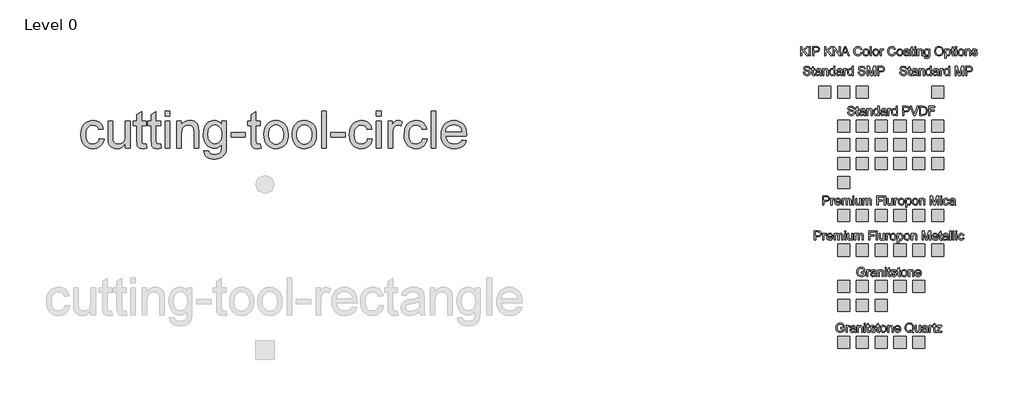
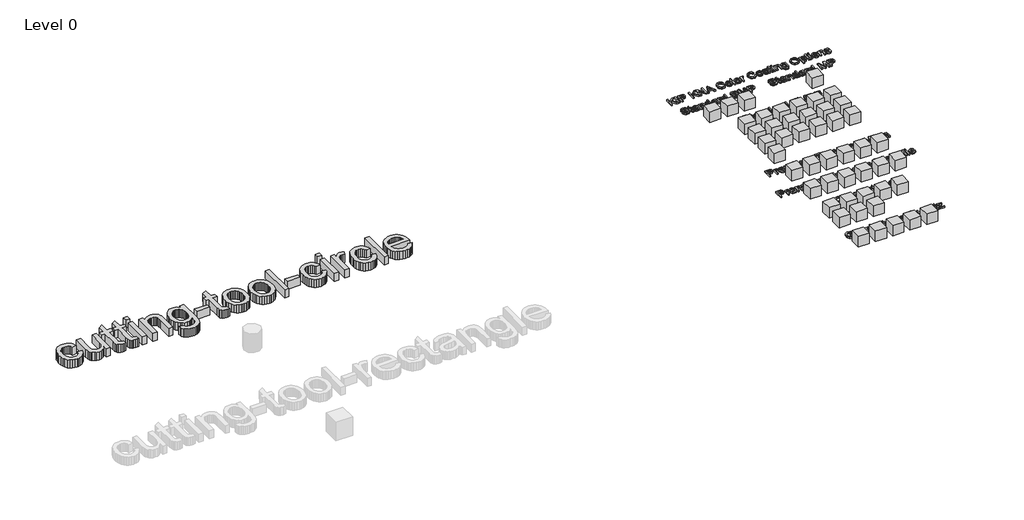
# One storey, part 3 of 3: 50 proxies.
"""IFC4 building model written with IfcOpenShell, lengths in millimetres."""

from ifc_helpers import new_model, si_unit, origin, origin_with_axes, place, context, project, spatial, polyline, outline, extrude, transform, mapped, element, save
from components import ks_color_sample_ks_color_sample_0243efec, r19_kna_color_range_kingspan_quadcore_4278cd54, r19_kna_color_range_kingspan_quadcore_c5814d20, r19_kna_color_range_kingspan_quadcore_91b79b7c

model = new_model("IFC4")

# Units and contexts
model_context = context("Model", 3, world=origin())
ifc_project = project(units=[si_unit("LENGTHUNIT", "METRE", prefix="MILLI")], contexts=[model_context])

# Site, building, storey
site = spatial("IfcSite", under=ifc_project)
building = spatial("IfcBuilding", under=site)
storey = spatial("IfcBuildingStorey", under=building, Name="Level 0", Elevation=0.0)

# Proxies
placement = place(None, origin())
element("IfcBuildingElementProxy", 1, Name="24\" Arial", ObjectType="24\" Arial", at=placement, inside=storey, context=model_context, shape_type="SweptSolid", body=[
    extrude(outline(polyline([(204.8977302, 12875.7491263), (281.0395037, 12866.2314046), (272.7579705, 12830.3029347), (259.8105229, 12798.5105841), (242.197161, 12770.8543527), (219.9178847, 12747.3342407), (193.9114538, 12728.5636948), (165.1166278, 12715.1561621), (133.5334068, 12707.1116424), (99.1617908, 12704.4301359), (56.4575209, 12708.1712325), (18.1682099, 12719.3945225), (-15.7061423, 12738.1000058), (-45.1655358, 12764.2876824), (-69.0109606, 12797.4649359), (-86.0434069, 12837.1391498), (-96.2628746, 12883.3103241), (-99.6693639, 12935.9784589), (-93.8509129, 13003.736458), (-86.5778493, 13034.2275576), (-76.3955601, 13062.4600572), (-63.2343356, 13087.8669833), (-47.0244658, 13109.881362), (-27.7659508, 13128.5031934), (-5.4587906, 13143.7324776), (18.8885453, 13155.5738618), (44.2675874, 13164.0319934), (70.6783356, 13169.1068723), (98.12079, 13170.7984987), (131.9021957, 13168.4748361), (162.4583579, 13161.5038486), (189.7892765, 13149.885536), (213.8949515, 13133.6198983), (234.3664183, 13113.0787216), (250.7947123, 13088.6337919), (263.1798335, 13060.2851091), (271.521782, 13028.0326733), (195.3800085, 13018.5149516), (181.5681584, 13051.734031), (160.0603381, 13075.5469246), (132.0462628, 13089.879275), (98.7156476, 13094.6567251), (72.8439891, 13092.3051787), (49.50977, 13085.2505393), (28.7129904, 13073.4928069), (10.4536503, 13057.0319816), (-4.4131425, 13035.4869827), (-15.0322802, 13008.4767295), (-21.4037628, 12976.0012221), (-23.5275904, 12938.0604605), (-21.4502361, 12899.5480778), (-15.2181732, 12866.6961371), (-4.8314017, 12839.5046383), (9.7100783, 12817.9735813), (27.6069271, 12801.6103499), (48.0598046, 12789.9223274), (71.0687109, 12782.9095139), (96.6336459, 12780.5719094), (136.0615516, 12786.4089496), (153.1125872, 12793.70525), (168.3883446, 12803.9200704), (181.46127, 12817.1649468), (191.9038093, 12833.5514149), (199.7159627, 12853.0794747), (204.8977302, 12875.7491263)])), origin_with_axes(), (0.0, 0.0, 1.0), 152.4),
    extrude(outline(polyline([(633.1952062, 12713.9478576), (633.1952062, 12790.8332031), (605.6458633, 12753.0318612), (573.5607312, 12726.0309027), (536.9398099, 12709.8303276), (495.7830993, 12704.4301359), (458.6974455, 12708.2223531), (424.177115, 12719.5990048), (395.2149854, 12736.701161), (374.8039338, 12757.6698916), (361.0664409, 12783.1372328), (352.1249876, 12813.7352209), (347.6635555, 12884.523276), (347.6635555, 13161.280777), (423.805329, 13161.280777), (423.805329, 12920.3634467), (424.9578656, 12872.1799807), (428.4154755, 12842.7345292), (439.5132877, 12816.839634), (458.5301418, 12797.1535651), (484.2019653, 12784.7173233), (515.2646859, 12780.5719094), (548.1119793, 12784.8102698), (578.8400925, 12797.5253511), (604.1773086, 12817.5460274), (620.8519109, 12843.7011728), (630.1093824, 12879.5227542), (633.1952062, 12928.5427388), (633.1952062, 13161.280777), (709.3369797, 13161.280777), (709.3369797, 12713.9478576), (633.1952062, 12713.9478576)])), origin_with_axes(), (0.0, 0.0, 1.0), 152.4),
    extrude(outline(polyline([(975.833187, 12777.448907), (985.3509087, 12711.7171415), (955.1990638, 12706.2518873), (928.393293, 12704.4301359), (891.8467288, 12707.5903169), (864.5948148, 12717.07086), (845.3362998, 12731.6820499), (832.7699329, 12750.2341715), (825.8547132, 12782.096232), (823.54964, 12836.6372387), (823.54964, 13085.1390035), (766.4433099, 13085.1390035), (766.4433099, 13161.280777), (823.54964, 13161.280777), (823.54964, 13269.9910044), (899.6914135, 13314.7540392), (899.6914135, 13161.280777), (975.833187, 13161.280777), (975.833187, 13085.1390035), (899.6914135, 13085.1390035), (899.6914135, 12838.8679547), (903.7067024, 12799.6073528), (916.7192125, 12785.7025562), (927.7054889, 12781.8545711), (942.6698755, 12780.5719094), (975.833187, 12777.448907)])), origin_with_axes(), (0.0, 0.0, 1.0), 152.4),
    extrude(outline(polyline([(1213.7762293, 12777.448907), (1223.293951, 12711.7171415), (1193.1421061, 12706.2518873), (1166.3363352, 12704.4301359), (1129.7897711, 12707.5903169), (1102.537857, 12717.07086), (1083.279342, 12731.6820499), (1070.7129751, 12750.2341715), (1063.7977555, 12782.096232), (1061.4926822, 12836.6372387), (1061.4926822, 13085.1390035), (1004.3863521, 13085.1390035), (1004.3863521, 13161.280777), (1061.4926822, 13161.280777), (1061.4926822, 13269.9910044), (1137.6344558, 13314.7540392), (1137.6344558, 13161.280777), (1213.7762293, 13161.280777), (1213.7762293, 13085.1390035), (1137.6344558, 13085.1390035), (1137.6344558, 12838.8679547), (1141.6497446, 12799.6073528), (1154.6622547, 12785.7025562), (1165.6485311, 12781.8545711), (1180.6129178, 12780.5719094), (1213.7762293, 12777.448907)])), origin_with_axes(), (0.0, 0.0, 1.0), 152.4),
    extrude(outline(polyline([(1289.9180028, 13246.9402722), (1289.9180028, 13323.0820457), (1366.0597763, 13323.0820457), (1366.0597763, 13246.9402722), (1289.9180028, 13246.9402722)])), origin_with_axes(), (0.0, 0.0, 1.0), 152.4),
    extrude(outline(polyline([(1289.9180028, 12713.9478576), (1289.9180028, 13161.280777), (1366.0597763, 13161.280777), (1366.0597763, 12713.9478576), (1289.9180028, 12713.9478576)])), origin_with_axes(), (0.0, 0.0, 1.0), 152.4),
    extrude(outline(polyline([(1480.2724366, 12713.9478576), (1480.2724366, 13161.280777), (1556.4142101, 13161.280777), (1556.4142101, 13098.8207284), (1582.8667842, 13130.3110029), (1614.6358982, 13152.8040561), (1651.7215521, 13166.299888), (1694.1237458, 13170.7984987), (1731.6555428, 13167.1735851), (1766.0271589, 13156.2988445), (1794.6918597, 13139.5312958), (1815.1029113, 13118.2279578), (1828.95194, 13092.4445984), (1837.9305719, 13062.2369856), (1841.9458608, 12988.6233569), (1841.9458608, 12713.9478576), (1765.8040873, 12713.9478576), (1765.8040873, 12978.3620633), (1763.6105498, 13017.734201), (1757.0299376, 13045.7296871), (1744.8911246, 13065.787542), (1726.0229849, 13081.3467862), (1701.8383054, 13091.3292404), (1673.7498728, 13094.6567251), (1650.6294307, 13092.7885005), (1629.1541417, 13087.1838265), (1609.3240057, 13077.8427031), (1591.1390228, 13064.7651305), (1575.9469173, 13046.4639644), (1565.0954133, 13021.4520611), (1558.5845109, 12989.7294203), (1556.4142101, 12951.2960422), (1556.4142101, 12713.9478576), (1480.2724366, 12713.9478576)])), origin_with_axes(), (0.0, 0.0, 1.0), 152.4),
    extrude(outline(polyline([(1927.605356, 12675.8769708), (2003.7471295, 12666.3592491), (2012.1494932, 12642.5649449), (2028.4337201, 12626.2063607), (2060.444495, 12613.4912794), (2102.3447776, 12609.252919), (2147.0334553, 12614.0489584), (2165.0836657, 12620.0440077), (2180.271124, 12628.4370768), (2203.3218562, 12651.487809), (2217.4497243, 12682.2716901), (2221.576549, 12715.026037), (2222.6547284, 12771.0541877), (2197.3175122, 12746.0701683), (2169.0431867, 12728.2244401), (2137.8317517, 12717.5170032), (2103.6832073, 12713.9478576), (2061.9362864, 12718.1025661), (2025.1805926, 12730.5666919), (1993.4161259, 12751.3402349), (1966.6428864, 12780.423195), (1945.3999636, 12815.3153114), (1930.2264473, 12853.5163233), (1921.1223376, 12895.0262306), (1918.0876343, 12939.8450333), (1923.5342993, 13001.319849), (1939.8742941, 13057.8499108), (1951.9852232, 13083.3404887), (1966.5313506, 13105.7545374), (1983.5126763, 13125.0920569), (2002.9292003, 13141.3530472), (2024.4695519, 13154.2354322), (2047.8223602, 13163.4371358), (2072.9876253, 13168.9581579), (2099.9653472, 13170.7984987), (2135.5731517, 13166.6344954), (2167.8906501, 13154.1424857), (2196.9178423, 13133.3224695), (2222.6547284, 13104.1744468), (2222.6547284, 13161.280777), (2298.7965019, 13161.280777), (2298.7965019, 12775.0694765), (2293.5914978, 12685.8966036), (2287.0852428, 12652.7286448), (2277.9764857, 12627.1730043), (2266.0468023, 12606.5621178), (2251.0777683, 12588.2284205), (2233.0693838, 12572.1719125), (2212.0216487, 12558.3925937), (2188.1483399, 12547.3319601), (2161.6632345, 12539.4315075), (2132.5663324, 12534.691236), (2100.8576336, 12533.1111455), (2063.5535555, 12535.3372142), (2030.0138107, 12542.0154202), (2000.2383991, 12553.1457637), (1974.2273208, 12568.7282446), (1953.2167643, 12588.7814522), (1938.442918, 12613.3239757), (1929.9057819, 12642.3558153), (1927.605356, 12675.8769708)]), holes=[polyline([(1994.2294078, 12945.0500373), (1996.2602889, 12907.4020572), (2002.352932, 12875.2100366), (2012.5073372, 12848.4739756), (2026.7235045, 12827.1938742), (2044.0069064, 12810.9607678), (2063.3630152, 12799.3656919), (2084.7918309, 12792.4086463), (2108.2933537, 12790.0896311), (2131.5625102, 12792.3947043), (2152.8890848, 12799.309924), (2172.2730776, 12810.8352901), (2189.7144885, 12826.9708026), (2204.1258434, 12848.0417744), (2214.4196684, 12874.3735181), (2220.5959634, 12905.9660337), (2222.6547284, 12942.8193213), (2220.5355482, 12978.1343443), (2214.1780075, 13008.8299262), (2203.5821064, 13034.9060671), (2188.7478449, 13056.3627668), (2170.9300006, 13073.1163736), (2151.3833515, 13085.0832356), (2130.1078974, 13092.2633527), (2107.1036385, 13094.6567251), (2084.4851075, 13092.3005313), (2063.6232654, 13085.23195), (2044.5181121, 13073.450981), (2027.1696477, 13056.9576244), (2012.7582928, 13035.8262374), (2002.4644678, 13010.1311773), (1996.2881728, 12979.8724439), (1994.2294078, 12945.0500373)])]), origin_with_axes(), (0.0, 0.0, 1.0), 152.4),
    extrude(outline(polyline([(2374.9382754, 12894.7845697), (2374.9382754, 12970.9263432), (2612.8813176, 12970.9263432), (2612.8813176, 12894.7845697), (2374.9382754, 12894.7845697)])), origin_with_axes(), (0.0, 0.0, 1.0), 152.4),
    extrude(outline(polyline([(2860.3420816, 12777.448907), (2869.8598033, 12711.7171415), (2839.7079584, 12706.2518873), (2812.9021875, 12704.4301359), (2776.3556234, 12707.5903169), (2749.1037093, 12717.07086), (2729.8451943, 12731.6820499), (2717.2788274, 12750.2341715), (2710.3636078, 12782.096232), (2708.0585345, 12836.6372387), (2708.0585345, 13085.1390035), (2650.9522044, 13085.1390035), (2650.9522044, 13161.280777), (2708.0585345, 13161.280777), (2708.0585345, 13269.9910044), (2784.2003081, 13314.7540392), (2784.2003081, 13161.280777), (2860.3420816, 13161.280777), (2860.3420816, 13085.1390035), (2784.2003081, 13085.1390035), (2784.2003081, 12838.8679547), (2788.2155969, 12799.6073528), (2801.228107, 12785.7025562), (2812.2143834, 12781.8545711), (2827.1787701, 12780.5719094), (2860.3420816, 12777.448907)])), origin_with_axes(), (0.0, 0.0, 1.0), 152.4),
    extrude(outline(polyline([(2917.4484117, 12937.6143173), (2921.5659417, 12995.5478713), (2933.9185317, 13045.4694369), (2954.5061816, 13087.3790141), (2983.3288915, 13121.276603), (3012.3467891, 13142.9424324), (3044.3761533, 13158.4180247), (3079.4169841, 13167.7033802), (3117.4692816, 13170.7984987), (3159.4764527, 13167.0295181), (3197.4590403, 13155.7225762), (3231.4170443, 13136.8776732), (3261.350465, 13110.4948089), (3285.7814527, 13077.4662698), (3303.2321582, 13038.6843423), (3313.7025816, 12994.1490264), (3317.1927227, 12943.8603221), (3315.6498108, 12903.1032815), (3311.021075, 12866.937798), (3303.3065154, 12835.3638717), (3292.506132, 12808.3815025), (3278.7546972, 12785.0751674), (3262.1869835, 12764.5293433), (3242.8029907, 12746.7440304), (3220.602719, 12731.7192285), (3196.4505707, 12719.7802505), (3171.2109484, 12711.252409), (3144.883852, 12706.1357042), (3117.4692816, 12704.4301359), (3074.8486636, 12708.1851745), (3036.5128793, 12719.4502904), (3002.4619287, 12738.2254836), (2972.6958118, 12764.510754), (2948.5250743, 12797.8599586), (2931.2602617, 12837.8269539), (2920.9013742, 12884.4117402), (2917.4484117, 12937.6143173)]), holes=[polyline([(2993.5901852, 12937.7630317), (2995.7930173, 12900.8307395), (3002.4015135, 12868.8524959), (3013.4156739, 12841.8283008), (3028.8354984, 12819.7581542), (3047.5921022, 12802.6141721), (3068.6166007, 12790.3684706), (3091.9089939, 12783.0210497), (3117.4692816, 12780.5719094), (3142.8994442, 12783.0349917), (3166.0988909, 12790.4242385), (3187.0676215, 12802.7396498), (3205.805636, 12819.9812258), (3221.2254605, 12842.2697967), (3232.2396209, 12869.726193), (3238.8481171, 12902.3504148), (3241.0509492, 12940.1424621), (3238.8341751, 12975.9036283), (3232.183853, 13007.0453534), (3221.0999827, 13033.5676374), (3205.5825644, 13055.4704804), (3186.77484, 13072.6144625), (3165.8200514, 13084.860164), (3142.7181986, 13092.2075848), (3117.4692816, 13094.6567251), (3091.9089939, 13092.2168795), (3068.6166007, 13084.8973426), (3047.5921022, 13072.6981143), (3028.8354984, 13055.6191948), (3013.4156739, 13033.6141107), (3002.4015135, 13006.6363888), (2995.7930173, 12974.6860291), (2993.5901852, 12937.7630317)])]), origin_with_axes(), (0.0, 0.0, 1.0), 152.4),
    extrude(outline(polyline([(3383.8167745, 12937.6143173), (3387.9343045, 12995.5478713), (3400.2868945, 13045.4694369), (3420.8745444, 13087.3790141), (3449.6972543, 13121.276603), (3478.7151519, 13142.9424324), (3510.7445161, 13158.4180247), (3545.7853469, 13167.7033802), (3583.8376444, 13170.7984987), (3625.8448155, 13167.0295181), (3663.827403, 13155.7225762), (3697.7854071, 13136.8776732), (3727.7188277, 13110.4948089), (3752.1498155, 13077.4662698), (3769.600521, 13038.6843423), (3780.0709444, 12994.1490264), (3783.5610855, 12943.8603221), (3782.0181736, 12903.1032815), (3777.3894378, 12866.937798), (3769.6748782, 12835.3638717), (3758.8744948, 12808.3815025), (3745.12306, 12785.0751674), (3728.5553463, 12764.5293433), (3709.1713535, 12746.7440304), (3686.9710818, 12731.7192285), (3662.8189335, 12719.7802505), (3637.5793112, 12711.252409), (3611.2522148, 12706.1357042), (3583.8376444, 12704.4301359), (3541.2170264, 12708.1851745), (3502.8812421, 12719.4502904), (3468.8302915, 12738.2254836), (3439.0641746, 12764.510754), (3414.8934371, 12797.8599586), (3397.6286245, 12837.8269539), (3387.269737, 12884.4117402), (3383.8167745, 12937.6143173)]), holes=[polyline([(3459.958548, 12937.7630317), (3462.1613801, 12900.8307395), (3468.7698763, 12868.8524959), (3479.7840367, 12841.8283008), (3495.2038612, 12819.7581542), (3513.960465, 12802.6141721), (3534.9849635, 12790.3684706), (3558.2773566, 12783.0210497), (3583.8376444, 12780.5719094), (3609.267807, 12783.0349917), (3632.4672536, 12790.4242385), (3653.4359842, 12802.7396498), (3672.1739988, 12819.9812258), (3687.5938233, 12842.2697967), (3698.6079837, 12869.726193), (3705.2164799, 12902.3504148), (3707.419312, 12940.1424621), (3705.2025379, 12975.9036283), (3698.5522158, 13007.0453534), (3687.4683455, 13033.5676374), (3671.9509272, 13055.4704804), (3653.1432028, 13072.6144625), (3632.1884141, 13084.860164), (3609.0865614, 13092.2075848), (3583.8376444, 13094.6567251), (3558.2773566, 13092.2168795), (3534.9849635, 13084.8973426), (3513.960465, 13072.6981143), (3495.2038612, 13055.6191948), (3479.7840367, 13033.6141107), (3468.7698763, 13006.6363888), (3462.1613801, 12974.6860291), (3459.958548, 12937.7630317)])]), origin_with_axes(), (0.0, 0.0, 1.0), 152.4),
    extrude(outline(polyline([(3869.2205807, 12713.9478576), (3869.2205807, 13323.0820457), (3945.3623542, 13323.0820457), (3945.3623542, 12713.9478576), (3869.2205807, 12713.9478576)])), origin_with_axes(), (0.0, 0.0, 1.0), 152.4),
    extrude(outline(polyline([(4021.5041277, 12894.7845697), (4021.5041277, 12970.9263432), (4259.44717, 12970.9263432), (4259.44717, 12894.7845697), (4021.5041277, 12894.7845697)])), origin_with_axes(), (0.0, 0.0, 1.0), 152.4),
    extrude(outline(polyline([(4630.6383158, 12875.7491263), (4706.7800894, 12866.2314046), (4698.4985561, 12830.3029347), (4685.5511086, 12798.5105841), (4667.9377467, 12770.8543527), (4645.6584704, 12747.3342407), (4619.6520394, 12728.5636948), (4590.8572135, 12715.1561621), (4559.2739925, 12707.1116424), (4524.9023765, 12704.4301359), (4482.1981066, 12708.1712325), (4443.9087956, 12719.3945225), (4410.0344433, 12738.1000058), (4380.5750499, 12764.2876824), (4356.7296251, 12797.4649359), (4339.6971788, 12837.1391498), (4329.477711, 12883.3103241), (4326.0712218, 12935.9784589), (4331.8896727, 13003.736458), (4339.1627364, 13034.2275576), (4349.3450256, 13062.4600572), (4362.5062501, 13087.8669833), (4378.7161199, 13109.881362), (4397.9746349, 13128.5031934), (4420.2817951, 13143.7324776), (4444.629131, 13155.5738618), (4470.008173, 13164.0319934), (4496.4189213, 13169.1068723), (4523.8613756, 13170.7984987), (4557.6427814, 13168.4748361), (4588.1989435, 13161.5038486), (4615.5298621, 13149.885536), (4639.6355371, 13133.6198983), (4660.107004, 13113.0787216), (4676.535298, 13088.6337919), (4688.9204192, 13060.2851091), (4697.2623677, 13028.0326733), (4621.1205942, 13018.5149516), (4607.3087441, 13051.734031), (4585.8009238, 13075.5469246), (4557.7868485, 13089.879275), (4524.4562332, 13094.6567251), (4498.5845747, 13092.3051787), (4475.2503557, 13085.2505393), (4454.4535761, 13073.4928069), (4436.194236, 13057.0319816), (4421.3274432, 13035.4869827), (4410.7083055, 13008.4767295), (4404.3368228, 12976.0012221), (4402.2129953, 12938.0604605), (4404.2903496, 12899.5480778), (4410.5224125, 12866.6961371), (4420.9091839, 12839.5046383), (4435.450664, 12817.9735813), (4453.3475128, 12801.6103499), (4473.8003903, 12789.9223274), (4496.8092966, 12782.9095139), (4522.3742316, 12780.5719094), (4561.8021373, 12786.4089496), (4578.8531729, 12793.70525), (4594.1289303, 12803.9200704), (4607.2018557, 12817.1649468), (4617.644395, 12833.5514149), (4625.4565484, 12853.0794747), (4630.6383158, 12875.7491263)])), origin_with_axes(), (0.0, 0.0, 1.0), 152.4),
    extrude(outline(polyline([(4773.4041412, 13246.9402722), (4773.4041412, 13323.0820457), (4849.5459147, 13323.0820457), (4849.5459147, 13246.9402722), (4773.4041412, 13246.9402722)])), origin_with_axes(), (0.0, 0.0, 1.0), 152.4),
    extrude(outline(polyline([(4773.4041412, 12713.9478576), (4773.4041412, 13161.280777), (4849.5459147, 13161.280777), (4849.5459147, 12713.9478576), (4773.4041412, 12713.9478576)])), origin_with_axes(), (0.0, 0.0, 1.0), 152.4),
    extrude(outline(polyline([(4963.758575, 12713.9478576), (4963.758575, 13161.280777), (5030.3826268, 13161.280777), (5030.3826268, 13095.1028684), (5054.9948602, 13133.4711839), (5077.6738065, 13156.0757729), (5100.4271099, 13167.1178172), (5125.2624149, 13170.7984987), (5163.1845873, 13164.9242798), (5201.7016172, 13147.3016232), (5176.2714546, 13079.041713), (5149.5028623, 13090.7529721), (5122.7342701, 13094.6567251), (5099.999556, 13090.9016865), (5079.6814509, 13079.6365706), (5063.2670988, 13061.7164852), (5052.2436438, 13037.9965382), (5042.9861723, 12995.4642194), (5039.9003485, 12949.0653262), (5039.9003485, 12713.9478576), (4963.758575, 12713.9478576)])), origin_with_axes(), (0.0, 0.0, 1.0), 152.4),
    extrude(outline(polyline([(5534.8218764, 12875.7491263), (5610.9636499, 12866.2314046), (5602.6821167, 12830.3029347), (5589.7346691, 12798.5105841), (5572.1213072, 12770.8543527), (5549.8420309, 12747.3342407), (5523.8356, 12728.5636948), (5495.040774, 12715.1561621), (5463.457553, 12707.1116424), (5429.085937, 12704.4301359), (5386.3816671, 12708.1712325), (5348.0923561, 12719.3945225), (5314.2180039, 12738.1000058), (5284.7586104, 12764.2876824), (5260.9131856, 12797.4649359), (5243.8807393, 12837.1391498), (5233.6612716, 12883.3103241), (5230.2547823, 12935.9784589), (5236.0732333, 13003.736458), (5243.3462969, 13034.2275576), (5253.5285861, 13062.4600572), (5266.6898106, 13087.8669833), (5282.8996804, 13109.881362), (5302.1581954, 13128.5031934), (5324.4653556, 13143.7324776), (5348.8126915, 13155.5738618), (5374.1917336, 13164.0319934), (5400.6024818, 13169.1068723), (5428.0449362, 13170.7984987), (5461.8263419, 13168.4748361), (5492.3825041, 13161.5038486), (5519.7134226, 13149.885536), (5543.8190976, 13133.6198983), (5564.2905645, 13113.0787216), (5580.7188585, 13088.6337919), (5593.1039797, 13060.2851091), (5601.4459282, 13028.0326733), (5525.3041547, 13018.5149516), (5511.4923046, 13051.734031), (5489.9844843, 13075.5469246), (5461.970409, 13089.879275), (5428.6397938, 13094.6567251), (5402.7681352, 13092.3051787), (5379.4339162, 13085.2505393), (5358.6371366, 13073.4928069), (5340.3777965, 13057.0319816), (5325.5110037, 13035.4869827), (5314.891866, 13008.4767295), (5308.5203834, 12976.0012221), (5306.3965558, 12938.0604605), (5308.4739101, 12899.5480778), (5314.705973, 12866.6961371), (5325.0927445, 12839.5046383), (5339.6342245, 12817.9735813), (5357.5310733, 12801.6103499), (5377.9839508, 12789.9223274), (5400.9928571, 12782.9095139), (5426.5577921, 12780.5719094), (5465.9856978, 12786.4089496), (5483.0367334, 12793.70525), (5498.3124908, 12803.9200704), (5511.3854162, 12817.1649468), (5521.8279555, 12833.5514149), (5529.6401089, 12853.0794747), (5534.8218764, 12875.7491263)])), origin_with_axes(), (0.0, 0.0, 1.0), 152.4),
    extrude(outline(polyline([(5677.5877017, 12713.9478576), (5677.5877017, 13323.0820457), (5753.7294752, 13323.0820457), (5753.7294752, 12713.9478576), (5677.5877017, 12713.9478576)])), origin_with_axes(), (0.0, 0.0, 1.0), 152.4),
    extrude(outline(polyline([(6181.1346649, 12847.1959612), (6255.7892944, 12837.6782395), (6244.3429328, 12807.7773502), (6228.890577, 12781.4270172), (6209.432227, 12758.6272405), (6185.9678829, 12739.3780202), (6158.7392055, 12724.0883208), (6127.9878557, 12713.167107), (6093.7138335, 12706.6143786), (6055.9171389, 12704.4301359), (6008.6724325, 12708.1991165), (5966.5769622, 12719.5060583), (5929.6307281, 12738.3509614), (5897.8337302, 12764.7338256), (5872.2641478, 12797.9203738), (5854.0001604, 12837.1763284), (5843.0417679, 12882.5016896), (5839.3889704, 12933.8964572), (5843.0789465, 12987.0339718), (5854.1488748, 13033.8697136), (5872.5987552, 13074.4036826), (5898.4285878, 13108.6358789), (5930.1419339, 13135.832025), (5966.2423548, 13155.2578437), (6006.7298506, 13166.9133349), (6051.6044212, 13170.7984987), (6095.0336738, 13166.9226296), (6134.3082177, 13155.2950223), (6169.4280531, 13135.9156769), (6200.3931798, 13108.7845933), (6225.6699807, 13074.6267542), (6243.7248385, 13034.1671424), (6254.5577532, 12987.4057578), (6258.1687248, 12934.3426004), (6257.7225816, 12913.820013), (5915.5307439, 12913.820013), (5919.9410554, 12883.4358019), (5928.7105578, 12856.8252187), (5941.839251, 12833.9882634), (5959.3271352, 12814.9249361), (5980.2075666, 12799.8954869), (6003.5139017, 12789.1601661), (6029.2461404, 12782.7189736), (6057.4042829, 12780.5719094), (6097.9289573, 12784.5500196), (6132.0589124, 12796.4843503), (6159.7941483, 12817.1184735), (6181.1346649, 12847.1959612)]), holes=[polyline([(5915.5307439, 12989.9617866), (6182.0269513, 12989.9617866), (6171.728479, 13030.1890321), (6162.8706774, 13046.0085266), (6151.540499, 13058.9652688), (6130.7762507, 13074.580281), (6107.1492502, 13085.7338611), (6080.6594974, 13092.4260091), (6051.3069924, 13094.6567251), (6024.5337529, 13092.8767997), (5999.9819346, 13087.5370232), (5977.6515378, 13078.6373957), (5957.5425623, 13066.1779173), (5940.6681251, 13050.7348562), (5928.041343, 13032.8844807), (5919.6622159, 13012.6267908), (5915.5307439, 12989.9617866)])]), origin_with_axes(), (0.0, 0.0, 1.0), 152.4),
])
ks_color_sample_ks_color_sample_shape = ks_color_sample_ks_color_sample_0243efec(model_context)
element("IfcBuildingElementProxy", 2, Name="KS_Color Sample : KS_Color Sample", ObjectType="KS_Color Sample : KS_Color Sample", at=placement, inside=storey, context=model_context, shape_type="MappedRepresentation", body=[
    mapped(ks_color_sample_ks_color_sample_shape, transform((12166.5853815, 13639.2290821, 0.0), x_axis=(1.0, 0.0, 0.0), y_axis=(0.0, 1.0, 0.0), z_axis=(0.0, 0.0, 1.0))),
])
element("IfcBuildingElementProxy", 3, Name="KS_Color Sample : KS_Color Sample", ObjectType="KS_Color Sample : KS_Color Sample", at=placement, inside=storey, context=model_context, shape_type="MappedRepresentation", body=[
    mapped(ks_color_sample_ks_color_sample_shape, transform((12476.5853815, 13639.2290821, 0.0), x_axis=(1.0, 0.0, 0.0), y_axis=(0.0, 1.0, 0.0), z_axis=(0.0, 0.0, 1.0))),
])
element("IfcBuildingElementProxy", 4, Name="KS_Color Sample : KS_Color Sample", ObjectType="KS_Color Sample : KS_Color Sample", at=placement, inside=storey, context=model_context, shape_type="MappedRepresentation", body=[
    mapped(ks_color_sample_ks_color_sample_shape, transform((12786.5853815, 13639.2290821, 0.0), x_axis=(1.0, 0.0, 0.0), y_axis=(0.0, 1.0, 0.0), z_axis=(0.0, 0.0, 1.0))),
])
element("IfcBuildingElementProxy", 5, Name="KS_Color Sample : KS_Color Sample", ObjectType="KS_Color Sample : KS_Color Sample", at=placement, inside=storey, context=model_context, shape_type="MappedRepresentation", body=[
    mapped(ks_color_sample_ks_color_sample_shape, transform((14026.5853815, 13639.2290821, 0.0), x_axis=(1.0, 0.0, 0.0), y_axis=(0.0, 1.0, 0.0), z_axis=(0.0, 0.0, 1.0))),
])
element("IfcBuildingElementProxy", 6, Name="KS_Color Sample : KS_Color Sample", ObjectType="KS_Color Sample : KS_Color Sample", at=placement, inside=storey, context=model_context, shape_type="MappedRepresentation", body=[
    mapped(ks_color_sample_ks_color_sample_shape, transform((12786.5853815, 13079.2290821, 0.0), x_axis=(1.0, 0.0, 0.0), y_axis=(0.0, 1.0, 0.0), z_axis=(0.0, 0.0, 1.0))),
])
element("IfcBuildingElementProxy", 7, Name="KS_Color Sample : KS_Color Sample", ObjectType="KS_Color Sample : KS_Color Sample", at=placement, inside=storey, context=model_context, shape_type="MappedRepresentation", body=[
    mapped(ks_color_sample_ks_color_sample_shape, transform((13096.5853815, 13079.2290821, 0.0), x_axis=(1.0, 0.0, 0.0), y_axis=(0.0, 1.0, 0.0), z_axis=(0.0, 0.0, 1.0))),
])
element("IfcBuildingElementProxy", 8, Name="KS_Color Sample : KS_Color Sample", ObjectType="KS_Color Sample : KS_Color Sample", at=placement, inside=storey, context=model_context, shape_type="MappedRepresentation", body=[
    mapped(ks_color_sample_ks_color_sample_shape, transform((13406.5853815, 13079.2290821, 0.0), x_axis=(1.0, 0.0, 0.0), y_axis=(0.0, 1.0, 0.0), z_axis=(0.0, 0.0, 1.0))),
])
element("IfcBuildingElementProxy", 9, Name="KS_Color Sample : KS_Color Sample", ObjectType="KS_Color Sample : KS_Color Sample", at=placement, inside=storey, context=model_context, shape_type="MappedRepresentation", body=[
    mapped(ks_color_sample_ks_color_sample_shape, transform((13716.5853815, 13079.2290821, 0.0), x_axis=(1.0, 0.0, 0.0), y_axis=(0.0, 1.0, 0.0), z_axis=(0.0, 0.0, 1.0))),
])
element("IfcBuildingElementProxy", 10, Name="KS_Color Sample : KS_Color Sample", ObjectType="KS_Color Sample : KS_Color Sample", at=placement, inside=storey, context=model_context, shape_type="MappedRepresentation", body=[
    mapped(ks_color_sample_ks_color_sample_shape, transform((12476.5853815, 11599.2290821, 0.0), x_axis=(1.0, 0.0, 0.0), y_axis=(0.0, 1.0, 0.0), z_axis=(0.0, 0.0, 1.0))),
])
element("IfcBuildingElementProxy", 11, Name="KS_Color Sample : KS_Color Sample", ObjectType="KS_Color Sample : KS_Color Sample", at=placement, inside=storey, context=model_context, shape_type="MappedRepresentation", body=[
    mapped(ks_color_sample_ks_color_sample_shape, transform((12786.5853815, 11599.2290821, 0.0), x_axis=(1.0, 0.0, 0.0), y_axis=(0.0, 1.0, 0.0), z_axis=(0.0, 0.0, 1.0))),
])
element("IfcBuildingElementProxy", 12, Name="KS_Color Sample : KS_Color Sample", ObjectType="KS_Color Sample : KS_Color Sample", at=placement, inside=storey, context=model_context, shape_type="MappedRepresentation", body=[
    mapped(ks_color_sample_ks_color_sample_shape, transform((13096.5853815, 11599.2290821, 0.0), x_axis=(1.0, 0.0, 0.0), y_axis=(0.0, 1.0, 0.0), z_axis=(0.0, 0.0, 1.0))),
])
element("IfcBuildingElementProxy", 13, Name="KS_Color Sample : KS_Color Sample", ObjectType="KS_Color Sample : KS_Color Sample", at=placement, inside=storey, context=model_context, shape_type="MappedRepresentation", body=[
    mapped(ks_color_sample_ks_color_sample_shape, transform((13406.5853815, 11599.2290821, 0.0), x_axis=(1.0, 0.0, 0.0), y_axis=(0.0, 1.0, 0.0), z_axis=(0.0, 0.0, 1.0))),
])
element("IfcBuildingElementProxy", 14, Name="KS_Color Sample : KS_Color Sample", ObjectType="KS_Color Sample : KS_Color Sample", at=placement, inside=storey, context=model_context, shape_type="MappedRepresentation", body=[
    mapped(ks_color_sample_ks_color_sample_shape, transform((14026.5853815, 13079.2290821, 0.0), x_axis=(1.0, 0.0, 0.0), y_axis=(0.0, 1.0, 0.0), z_axis=(0.0, 0.0, 1.0))),
])
element("IfcBuildingElementProxy", 15, Name="KS_Color Sample : KS_Color Sample", ObjectType="KS_Color Sample : KS_Color Sample", at=placement, inside=storey, context=model_context, shape_type="MappedRepresentation", body=[
    mapped(ks_color_sample_ks_color_sample_shape, transform((13716.5853815, 12769.2290821, 0.0), x_axis=(1.0, 0.0, 0.0), y_axis=(0.0, 1.0, 0.0), z_axis=(0.0, 0.0, 1.0))),
])
element("IfcBuildingElementProxy", 16, Name="KS_Color Sample : KS_Color Sample", ObjectType="KS_Color Sample : KS_Color Sample", at=placement, inside=storey, context=model_context, shape_type="MappedRepresentation", body=[
    mapped(ks_color_sample_ks_color_sample_shape, transform((14026.5853815, 12769.2290821, 0.0), x_axis=(1.0, 0.0, 0.0), y_axis=(0.0, 1.0, 0.0), z_axis=(0.0, 0.0, 1.0))),
])
element("IfcBuildingElementProxy", 17, Name="KS_Color Sample : KS_Color Sample", ObjectType="KS_Color Sample : KS_Color Sample", at=placement, inside=storey, context=model_context, shape_type="MappedRepresentation", body=[
    mapped(ks_color_sample_ks_color_sample_shape, transform((12476.5853815, 12769.2290821, 0.0), x_axis=(1.0, 0.0, 0.0), y_axis=(0.0, 1.0, 0.0), z_axis=(0.0, 0.0, 1.0))),
])
element("IfcBuildingElementProxy", 18, Name="KS_Color Sample : KS_Color Sample", ObjectType="KS_Color Sample : KS_Color Sample", at=placement, inside=storey, context=model_context, shape_type="MappedRepresentation", body=[
    mapped(ks_color_sample_ks_color_sample_shape, transform((13096.5853815, 12769.2290821, 0.0), x_axis=(1.0, 0.0, 0.0), y_axis=(0.0, 1.0, 0.0), z_axis=(0.0, 0.0, 1.0))),
])
element("IfcBuildingElementProxy", 19, Name="KS_Color Sample : KS_Color Sample", ObjectType="KS_Color Sample : KS_Color Sample", at=placement, inside=storey, context=model_context, shape_type="MappedRepresentation", body=[
    mapped(ks_color_sample_ks_color_sample_shape, transform((13406.5853815, 12769.2290821, 0.0), x_axis=(1.0, 0.0, 0.0), y_axis=(0.0, 1.0, 0.0), z_axis=(0.0, 0.0, 1.0))),
])
element("IfcBuildingElementProxy", 20, Name="KS_Color Sample : KS_Color Sample", ObjectType="KS_Color Sample : KS_Color Sample", at=placement, inside=storey, context=model_context, shape_type="MappedRepresentation", body=[
    mapped(ks_color_sample_ks_color_sample_shape, transform((12476.5853815, 12459.2290821, 0.0), x_axis=(1.0, 0.0, 0.0), y_axis=(0.0, 1.0, 0.0), z_axis=(0.0, 0.0, 1.0))),
])
element("IfcBuildingElementProxy", 21, Name="KS_Color Sample : KS_Color Sample", ObjectType="KS_Color Sample : KS_Color Sample", at=placement, inside=storey, context=model_context, shape_type="MappedRepresentation", body=[
    mapped(ks_color_sample_ks_color_sample_shape, transform((12786.5853815, 12459.2290821, 0.0), x_axis=(1.0, 0.0, 0.0), y_axis=(0.0, 1.0, 0.0), z_axis=(0.0, 0.0, 1.0))),
])
element("IfcBuildingElementProxy", 22, Name="KS_Color Sample : KS_Color Sample", ObjectType="KS_Color Sample : KS_Color Sample", at=placement, inside=storey, context=model_context, shape_type="MappedRepresentation", body=[
    mapped(ks_color_sample_ks_color_sample_shape, transform((13096.5853815, 12459.2290821, 0.0), x_axis=(1.0, 0.0, 0.0), y_axis=(0.0, 1.0, 0.0), z_axis=(0.0, 0.0, 1.0))),
])
element("IfcBuildingElementProxy", 23, Name="KS_Color Sample : KS_Color Sample", ObjectType="KS_Color Sample : KS_Color Sample", at=placement, inside=storey, context=model_context, shape_type="MappedRepresentation", body=[
    mapped(ks_color_sample_ks_color_sample_shape, transform((13406.5853815, 12459.2290821, 0.0), x_axis=(1.0, 0.0, 0.0), y_axis=(0.0, 1.0, 0.0), z_axis=(0.0, 0.0, 1.0))),
])
element("IfcBuildingElementProxy", 24, Name="KS_Color Sample : KS_Color Sample", ObjectType="KS_Color Sample : KS_Color Sample", at=placement, inside=storey, context=model_context, shape_type="MappedRepresentation", body=[
    mapped(ks_color_sample_ks_color_sample_shape, transform((13716.5853815, 12459.2290821, 0.0), x_axis=(1.0, 0.0, 0.0), y_axis=(0.0, 1.0, 0.0), z_axis=(0.0, 0.0, 1.0))),
])
element("IfcBuildingElementProxy", 25, Name="KS_Color Sample : KS_Color Sample", ObjectType="KS_Color Sample : KS_Color Sample", at=placement, inside=storey, context=model_context, shape_type="MappedRepresentation", body=[
    mapped(ks_color_sample_ks_color_sample_shape, transform((14026.5853815, 12459.2290821, 0.0), x_axis=(1.0, 0.0, 0.0), y_axis=(0.0, 1.0, 0.0), z_axis=(0.0, 0.0, 1.0))),
])
element("IfcBuildingElementProxy", 26, Name="KS_Color Sample : KS_Color Sample", ObjectType="KS_Color Sample : KS_Color Sample", at=placement, inside=storey, context=model_context, shape_type="MappedRepresentation", body=[
    mapped(ks_color_sample_ks_color_sample_shape, transform((12476.5853815, 12149.2290821, 0.0), x_axis=(1.0, 0.0, 0.0), y_axis=(0.0, 1.0, 0.0), z_axis=(0.0, 0.0, 1.0))),
])
element("IfcBuildingElementProxy", 27, Name="KS_Color Sample : KS_Color Sample", ObjectType="KS_Color Sample : KS_Color Sample", at=placement, inside=storey, context=model_context, shape_type="MappedRepresentation", body=[
    mapped(ks_color_sample_ks_color_sample_shape, transform((13716.5853815, 11599.2290821, 0.0), x_axis=(1.0, 0.0, 0.0), y_axis=(0.0, 1.0, 0.0), z_axis=(0.0, 0.0, 1.0))),
])
element("IfcBuildingElementProxy", 28, Name="KS_Color Sample : KS_Color Sample", ObjectType="KS_Color Sample : KS_Color Sample", at=placement, inside=storey, context=model_context, shape_type="MappedRepresentation", body=[
    mapped(ks_color_sample_ks_color_sample_shape, transform((14026.5853815, 11599.2290821, 0.0), x_axis=(1.0, 0.0, 0.0), y_axis=(0.0, 1.0, 0.0), z_axis=(0.0, 0.0, 1.0))),
])
element("IfcBuildingElementProxy", 29, Name="KS_Color Sample : KS_Color Sample", ObjectType="KS_Color Sample : KS_Color Sample", at=placement, inside=storey, context=model_context, shape_type="MappedRepresentation", body=[
    mapped(ks_color_sample_ks_color_sample_shape, transform((12476.5853815, 11029.2290821, 0.0), x_axis=(1.0, 0.0, 0.0), y_axis=(0.0, 1.0, 0.0), z_axis=(0.0, 0.0, 1.0))),
])
element("IfcBuildingElementProxy", 30, Name="KS_Color Sample : KS_Color Sample", ObjectType="KS_Color Sample : KS_Color Sample", at=placement, inside=storey, context=model_context, shape_type="MappedRepresentation", body=[
    mapped(ks_color_sample_ks_color_sample_shape, transform((12786.5853815, 11029.2290821, 0.0), x_axis=(1.0, 0.0, 0.0), y_axis=(0.0, 1.0, 0.0), z_axis=(0.0, 0.0, 1.0))),
])
element("IfcBuildingElementProxy", 31, Name="KS_Color Sample : KS_Color Sample", ObjectType="KS_Color Sample : KS_Color Sample", at=placement, inside=storey, context=model_context, shape_type="MappedRepresentation", body=[
    mapped(ks_color_sample_ks_color_sample_shape, transform((13096.5853815, 11029.2290821, 0.0), x_axis=(1.0, 0.0, 0.0), y_axis=(0.0, 1.0, 0.0), z_axis=(0.0, 0.0, 1.0))),
])
element("IfcBuildingElementProxy", 32, Name="KS_Color Sample : KS_Color Sample", ObjectType="KS_Color Sample : KS_Color Sample", at=placement, inside=storey, context=model_context, shape_type="MappedRepresentation", body=[
    mapped(ks_color_sample_ks_color_sample_shape, transform((13406.5853815, 11029.2290821, 0.0), x_axis=(1.0, 0.0, 0.0), y_axis=(0.0, 1.0, 0.0), z_axis=(0.0, 0.0, 1.0))),
])
element("IfcBuildingElementProxy", 33, Name="KS_Color Sample : KS_Color Sample", ObjectType="KS_Color Sample : KS_Color Sample", at=placement, inside=storey, context=model_context, shape_type="MappedRepresentation", body=[
    mapped(ks_color_sample_ks_color_sample_shape, transform((13716.5853815, 11029.2290821, 0.0), x_axis=(1.0, 0.0, 0.0), y_axis=(0.0, 1.0, 0.0), z_axis=(0.0, 0.0, 1.0))),
])
element("IfcBuildingElementProxy", 34, Name="KS_Color Sample : KS_Color Sample", ObjectType="KS_Color Sample : KS_Color Sample", at=placement, inside=storey, context=model_context, shape_type="MappedRepresentation", body=[
    mapped(ks_color_sample_ks_color_sample_shape, transform((14026.5853815, 11029.2290821, 0.0), x_axis=(1.0, 0.0, 0.0), y_axis=(0.0, 1.0, 0.0), z_axis=(0.0, 0.0, 1.0))),
])
element("IfcBuildingElementProxy", 35, Name="KS_Color Sample : KS_Color Sample", ObjectType="KS_Color Sample : KS_Color Sample", at=placement, inside=storey, context=model_context, shape_type="MappedRepresentation", body=[
    mapped(ks_color_sample_ks_color_sample_shape, transform((12476.5853815, 10429.2290821, 0.0), x_axis=(1.0, 0.0, 0.0), y_axis=(0.0, 1.0, 0.0), z_axis=(0.0, 0.0, 1.0))),
])
element("IfcBuildingElementProxy", 36, Name="KS_Color Sample : KS_Color Sample", ObjectType="KS_Color Sample : KS_Color Sample", at=placement, inside=storey, context=model_context, shape_type="MappedRepresentation", body=[
    mapped(ks_color_sample_ks_color_sample_shape, transform((12786.5853815, 10429.2290821, 0.0), x_axis=(1.0, 0.0, 0.0), y_axis=(0.0, 1.0, 0.0), z_axis=(0.0, 0.0, 1.0))),
])
element("IfcBuildingElementProxy", 37, Name="KS_Color Sample : KS_Color Sample", ObjectType="KS_Color Sample : KS_Color Sample", at=placement, inside=storey, context=model_context, shape_type="MappedRepresentation", body=[
    mapped(ks_color_sample_ks_color_sample_shape, transform((13096.5853815, 10429.2290821, 0.0), x_axis=(1.0, 0.0, 0.0), y_axis=(0.0, 1.0, 0.0), z_axis=(0.0, 0.0, 1.0))),
])
element("IfcBuildingElementProxy", 38, Name="KS_Color Sample : KS_Color Sample", ObjectType="KS_Color Sample : KS_Color Sample", at=placement, inside=storey, context=model_context, shape_type="MappedRepresentation", body=[
    mapped(ks_color_sample_ks_color_sample_shape, transform((13406.5853815, 10429.2290821, 0.0), x_axis=(1.0, 0.0, 0.0), y_axis=(0.0, 1.0, 0.0), z_axis=(0.0, 0.0, 1.0))),
])
element("IfcBuildingElementProxy", 39, Name="KS_Color Sample : KS_Color Sample", ObjectType="KS_Color Sample : KS_Color Sample", at=placement, inside=storey, context=model_context, shape_type="MappedRepresentation", body=[
    mapped(ks_color_sample_ks_color_sample_shape, transform((13716.5853815, 10429.2290821, 0.0), x_axis=(1.0, 0.0, 0.0), y_axis=(0.0, 1.0, 0.0), z_axis=(0.0, 0.0, 1.0))),
])
element("IfcBuildingElementProxy", 40, Name="KS_Color Sample : KS_Color Sample", ObjectType="KS_Color Sample : KS_Color Sample", at=placement, inside=storey, context=model_context, shape_type="MappedRepresentation", body=[
    mapped(ks_color_sample_ks_color_sample_shape, transform((12476.5853815, 10119.2290821, 0.0), x_axis=(1.0, 0.0, 0.0), y_axis=(0.0, 1.0, 0.0), z_axis=(0.0, 0.0, 1.0))),
])
element("IfcBuildingElementProxy", 41, Name="KS_Color Sample : KS_Color Sample", ObjectType="KS_Color Sample : KS_Color Sample", at=placement, inside=storey, context=model_context, shape_type="MappedRepresentation", body=[
    mapped(ks_color_sample_ks_color_sample_shape, transform((12786.5853815, 10119.2290821, 0.0), x_axis=(1.0, 0.0, 0.0), y_axis=(0.0, 1.0, 0.0), z_axis=(0.0, 0.0, 1.0))),
])
element("IfcBuildingElementProxy", 42, Name="KS_Color Sample : KS_Color Sample", ObjectType="KS_Color Sample : KS_Color Sample", at=placement, inside=storey, context=model_context, shape_type="MappedRepresentation", body=[
    mapped(ks_color_sample_ks_color_sample_shape, transform((13096.5853815, 10119.2290821, 0.0), x_axis=(1.0, 0.0, 0.0), y_axis=(0.0, 1.0, 0.0), z_axis=(0.0, 0.0, 1.0))),
])
element("IfcBuildingElementProxy", 43, Name="KS_Color Sample : KS_Color Sample", ObjectType="KS_Color Sample : KS_Color Sample", at=placement, inside=storey, context=model_context, shape_type="MappedRepresentation", body=[
    mapped(ks_color_sample_ks_color_sample_shape, transform((12476.5853815, 9509.2290821, 0.0), x_axis=(1.0, 0.0, 0.0), y_axis=(0.0, 1.0, 0.0), z_axis=(0.0, 0.0, 1.0))),
])
element("IfcBuildingElementProxy", 44, Name="KS_Color Sample : KS_Color Sample", ObjectType="KS_Color Sample : KS_Color Sample", at=placement, inside=storey, context=model_context, shape_type="MappedRepresentation", body=[
    mapped(ks_color_sample_ks_color_sample_shape, transform((12786.5853815, 9509.2290821, 0.0), x_axis=(1.0, 0.0, 0.0), y_axis=(0.0, 1.0, 0.0), z_axis=(0.0, 0.0, 1.0))),
])
element("IfcBuildingElementProxy", 45, Name="KS_Color Sample : KS_Color Sample", ObjectType="KS_Color Sample : KS_Color Sample", at=placement, inside=storey, context=model_context, shape_type="MappedRepresentation", body=[
    mapped(ks_color_sample_ks_color_sample_shape, transform((13096.5853815, 9509.2290821, 0.0), x_axis=(1.0, 0.0, 0.0), y_axis=(0.0, 1.0, 0.0), z_axis=(0.0, 0.0, 1.0))),
])
element("IfcBuildingElementProxy", 46, Name="KS_Color Sample : KS_Color Sample", ObjectType="KS_Color Sample : KS_Color Sample", at=placement, inside=storey, context=model_context, shape_type="MappedRepresentation", body=[
    mapped(ks_color_sample_ks_color_sample_shape, transform((13406.5853815, 9509.2290821, 0.0), x_axis=(1.0, 0.0, 0.0), y_axis=(0.0, 1.0, 0.0), z_axis=(0.0, 0.0, 1.0))),
])
element("IfcBuildingElementProxy", 47, Name="KS_Color Sample : KS_Color Sample", ObjectType="KS_Color Sample : KS_Color Sample", at=placement, inside=storey, context=model_context, shape_type="MappedRepresentation", body=[
    mapped(ks_color_sample_ks_color_sample_shape, transform((13716.5853815, 9509.2290821, 0.0), x_axis=(1.0, 0.0, 0.0), y_axis=(0.0, 1.0, 0.0), z_axis=(0.0, 0.0, 1.0))),
])
element("IfcBuildingElementProxy", 48, Name="KS_Color Sample : KS_Color Sample", ObjectType="KS_Color Sample : KS_Color Sample", at=placement, inside=storey, context=model_context, shape_type="MappedRepresentation", body=[
    mapped(ks_color_sample_ks_color_sample_shape, transform((12476.5853815, 13079.2290821, 0.0), x_axis=(1.0, 0.0, 0.0), y_axis=(0.0, 1.0, 0.0), z_axis=(0.0, 0.0, 1.0))),
])
element("IfcBuildingElementProxy", 49, Name="KS_Color Sample : KS_Color Sample", ObjectType="KS_Color Sample : KS_Color Sample", at=placement, inside=storey, context=model_context, shape_type="MappedRepresentation", body=[
    mapped(ks_color_sample_ks_color_sample_shape, transform((12786.5853815, 12769.2290821, 0.0), x_axis=(1.0, 0.0, 0.0), y_axis=(0.0, 1.0, 0.0), z_axis=(0.0, 0.0, 1.0))),
])
r19_kna_color_range_kingspan_quadcore_shape = r19_kna_color_range_kingspan_quadcore_4278cd54(model_context)
r19_kna_color_range_kingspan_quadcore_2_shape = r19_kna_color_range_kingspan_quadcore_c5814d20(model_context)
r19_kna_color_range_kingspan_quadcore_3_shape = r19_kna_color_range_kingspan_quadcore_91b79b7c(model_context)
element("IfcBuildingElementProxy", 50, Name="R19_KNA_Color Range : Kingspan Quadcore", ObjectType="R19_KNA_Color Range : Kingspan Quadcore", at=placement, inside=storey, context=model_context, shape_type="MappedRepresentation", body=[
    mapped(r19_kna_color_range_kingspan_quadcore_shape, transform((13221.5853815, 13539.2290821, 0.0), x_axis=(1.0, 0.0, 0.0), y_axis=(0.0, 1.0, 0.0), z_axis=(0.0, 0.0, 1.0))),
    mapped(r19_kna_color_range_kingspan_quadcore_2_shape, transform((13221.5853815, 13539.2290821, 0.0), x_axis=(1.0, 0.0, 0.0), y_axis=(0.0, 1.0, 0.0), z_axis=(0.0, 0.0, 1.0))),
    mapped(r19_kna_color_range_kingspan_quadcore_3_shape, transform((13221.5853815, 13539.2290821, 0.0), x_axis=(1.0, 0.0, 0.0), y_axis=(0.0, 1.0, 0.0), z_axis=(0.0, 0.0, 1.0))),
])

save(model, "model.ifc")
